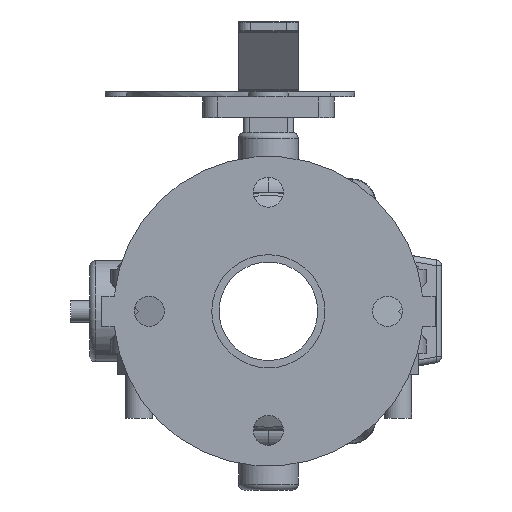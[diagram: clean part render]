
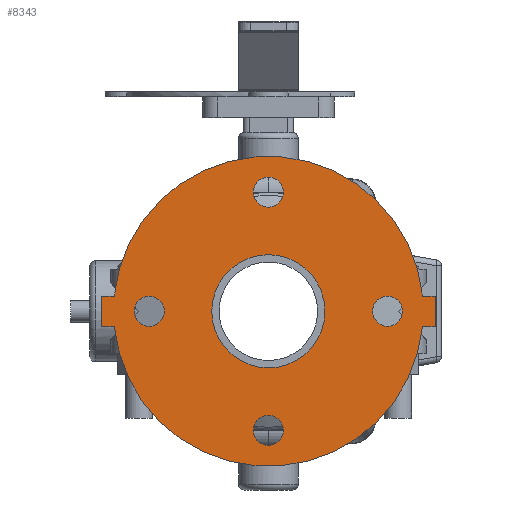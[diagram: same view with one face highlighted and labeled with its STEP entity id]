
A CAD part, front view. The second image highlights one B-rep face of the part: STEP entity #8343.
In plain terms, the highlighted planar face has unit normal (0, -1, 0) as drawn and (0, 0, -1) by its records, which use the part's own axes.
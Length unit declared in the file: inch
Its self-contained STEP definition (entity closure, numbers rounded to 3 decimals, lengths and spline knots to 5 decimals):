
#321=FACE_BOUND('',#1114,.T.);
#322=FACE_BOUND('',#1115,.T.);
#323=FACE_BOUND('',#1116,.T.);
#324=FACE_BOUND('',#1117,.T.);
#325=FACE_BOUND('',#1118,.T.);
#415=PLANE('',#9029);
#641=FACE_OUTER_BOUND('',#1113,.T.);
#1113=EDGE_LOOP('',(#5331,#5332,#5333,#5334,#5335,#5336,#5337,#5338));
#1114=EDGE_LOOP('',(#5339));
#1115=EDGE_LOOP('',(#5340));
#1116=EDGE_LOOP('',(#5341));
#1117=EDGE_LOOP('',(#5342));
#1118=EDGE_LOOP('',(#5343));
#1662=LINE('',#12555,#2241);
#1665=LINE('',#12561,#2244);
#1668=LINE('',#12566,#2247);
#1670=LINE('',#12571,#2249);
#1674=LINE('',#12578,#2253);
#1676=LINE('',#12581,#2255);
#2241=VECTOR('',#10031,0.3937);
#2244=VECTOR('',#10036,0.3937);
#2247=VECTOR('',#10041,0.3937);
#2249=VECTOR('',#10045,0.3937);
#2253=VECTOR('',#10051,0.3937);
#2255=VECTOR('',#10055,0.3937);
#2812=CIRCLE('',#9003,0.315);
#2814=CIRCLE('',#9006,0.315);
#2816=CIRCLE('',#9009,0.315);
#2818=CIRCLE('',#9012,0.315);
#2819=CIRCLE('',#9014,1.1875);
#2821=CIRCLE('',#9017,3.25);
#2824=CIRCLE('',#9021,3.25);
#3273=VERTEX_POINT('',#12508);
#3275=VERTEX_POINT('',#12514);
#3277=VERTEX_POINT('',#12520);
#3279=VERTEX_POINT('',#12526);
#3280=VERTEX_POINT('',#12530);
#3282=VERTEX_POINT('',#12536);
#3284=VERTEX_POINT('',#12539);
#3286=VERTEX_POINT('',#12545);
#3289=VERTEX_POINT('',#12550);
#3290=VERTEX_POINT('',#12554);
#3292=VERTEX_POINT('',#12560);
#3294=VERTEX_POINT('',#12569);
#3295=VERTEX_POINT('',#12570);
#4064=EDGE_CURVE('',#3273,#3273,#2812,.T.);
#4067=EDGE_CURVE('',#3275,#3275,#2814,.T.);
#4070=EDGE_CURVE('',#3277,#3277,#2816,.T.);
#4073=EDGE_CURVE('',#3279,#3279,#2818,.T.);
#4074=EDGE_CURVE('',#3280,#3280,#2819,.T.);
#4078=EDGE_CURVE('',#3282,#3284,#2821,.T.);
#4084=EDGE_CURVE('',#3289,#3286,#2824,.T.);
#4085=EDGE_CURVE('',#3284,#3290,#1662,.T.);
#4088=EDGE_CURVE('',#3292,#3289,#1665,.T.);
#4091=EDGE_CURVE('',#3290,#3292,#1668,.T.);
#4093=EDGE_CURVE('',#3294,#3295,#1670,.T.);
#4097=EDGE_CURVE('',#3286,#3294,#1674,.T.);
#4099=EDGE_CURVE('',#3295,#3282,#1676,.T.);
#5331=ORIENTED_EDGE('',*,*,#4099,.F.);
#5332=ORIENTED_EDGE('',*,*,#4093,.F.);
#5333=ORIENTED_EDGE('',*,*,#4097,.F.);
#5334=ORIENTED_EDGE('',*,*,#4084,.F.);
#5335=ORIENTED_EDGE('',*,*,#4088,.F.);
#5336=ORIENTED_EDGE('',*,*,#4091,.F.);
#5337=ORIENTED_EDGE('',*,*,#4085,.F.);
#5338=ORIENTED_EDGE('',*,*,#4078,.F.);
#5339=ORIENTED_EDGE('',*,*,#4064,.T.);
#5340=ORIENTED_EDGE('',*,*,#4067,.T.);
#5341=ORIENTED_EDGE('',*,*,#4070,.T.);
#5342=ORIENTED_EDGE('',*,*,#4073,.T.);
#5343=ORIENTED_EDGE('',*,*,#4074,.T.);
#8343=ADVANCED_FACE('',(#641,#321,#322,#323,#324,#325),#415,.F.);
#9003=AXIS2_PLACEMENT_3D('',#12510,#9983,#9984);
#9006=AXIS2_PLACEMENT_3D('',#12516,#9990,#9991);
#9009=AXIS2_PLACEMENT_3D('',#12522,#9997,#9998);
#9012=AXIS2_PLACEMENT_3D('',#12528,#10004,#10005);
#9014=AXIS2_PLACEMENT_3D('',#12531,#10008,#10009);
#9017=AXIS2_PLACEMENT_3D('',#12540,#10016,#10017);
#9021=AXIS2_PLACEMENT_3D('',#12552,#10027,#10028);
#9029=AXIS2_PLACEMENT_3D('',#12584,#10059,#10060);
#9983=DIRECTION('center_axis',(0.,0.,1.));
#9984=DIRECTION('ref_axis',(-1.,0.,0.));
#9990=DIRECTION('center_axis',(0.,0.,1.));
#9991=DIRECTION('ref_axis',(0.,1.,0.));
#9997=DIRECTION('center_axis',(0.,0.,1.));
#9998=DIRECTION('ref_axis',(1.,0.,0.));
#10004=DIRECTION('center_axis',(0.,0.,1.));
#10005=DIRECTION('ref_axis',(0.,-1.,0.));
#10008=DIRECTION('center_axis',(0.,0.,1.));
#10009=DIRECTION('ref_axis',(0.,-1.,0.));
#10016=DIRECTION('center_axis',(0.,0.,1.));
#10017=DIRECTION('ref_axis',(0.,1.,0.));
#10027=DIRECTION('center_axis',(0.,0.,1.));
#10028=DIRECTION('ref_axis',(0.,1.,0.));
#10031=DIRECTION('',(0.,-1.,0.));
#10036=DIRECTION('',(0.,1.,0.));
#10041=DIRECTION('',(1.,0.,0.));
#10045=DIRECTION('',(-1.,0.,0.));
#10051=DIRECTION('',(0.,1.,0.));
#10055=DIRECTION('',(0.,-1.,0.));
#10059=DIRECTION('center_axis',(0.,0.,1.));
#10060=DIRECTION('ref_axis',(0.,1.,0.));
#12508=CARTESIAN_POINT('',(0.315,2.5,0.));
#12510=CARTESIAN_POINT('Origin',(0.,2.5,0.));
#12514=CARTESIAN_POINT('',(2.5,-0.315,0.));
#12516=CARTESIAN_POINT('Origin',(2.5,0.,0.));
#12520=CARTESIAN_POINT('',(-0.315,-2.5,0.));
#12522=CARTESIAN_POINT('Origin',(0.,-2.5,0.));
#12526=CARTESIAN_POINT('',(-2.5,0.315,0.));
#12528=CARTESIAN_POINT('Origin',(-2.5,0.,0.));
#12530=CARTESIAN_POINT('',(0.,1.1875,0.));
#12531=CARTESIAN_POINT('Origin',(0.,0.,0.));
#12536=CARTESIAN_POINT('',(-0.32,3.23421,0.));
#12539=CARTESIAN_POINT('',(-0.32,-3.23421,0.));
#12540=CARTESIAN_POINT('Origin',(0.,0.,0.));
#12545=CARTESIAN_POINT('',(0.32,3.23421,0.));
#12550=CARTESIAN_POINT('',(0.32,-3.23421,0.));
#12552=CARTESIAN_POINT('Origin',(0.,0.,0.));
#12554=CARTESIAN_POINT('',(-0.32,-3.5,0.));
#12555=CARTESIAN_POINT('',(-0.32,-3.23421,0.));
#12560=CARTESIAN_POINT('',(0.32,-3.5,0.));
#12561=CARTESIAN_POINT('',(0.32,-3.5,0.));
#12566=CARTESIAN_POINT('',(-0.32,-3.5,0.));
#12569=CARTESIAN_POINT('',(0.32,3.5,0.));
#12570=CARTESIAN_POINT('',(-0.32,3.5,0.));
#12571=CARTESIAN_POINT('',(0.32,3.5,0.));
#12578=CARTESIAN_POINT('',(0.32,3.23421,0.));
#12581=CARTESIAN_POINT('',(-0.32,3.5,0.));
#12584=CARTESIAN_POINT('Origin',(0.,3.38297,
0.));
